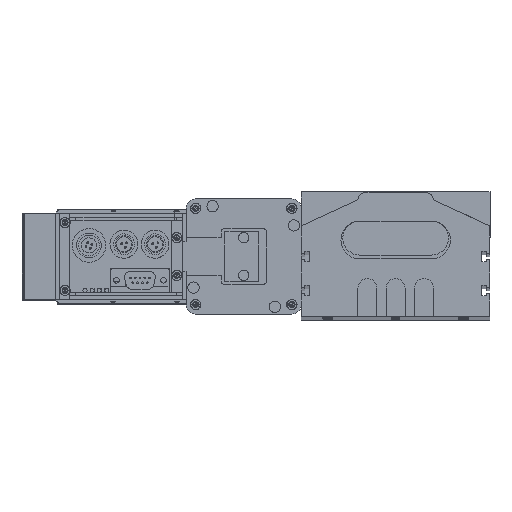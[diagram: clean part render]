
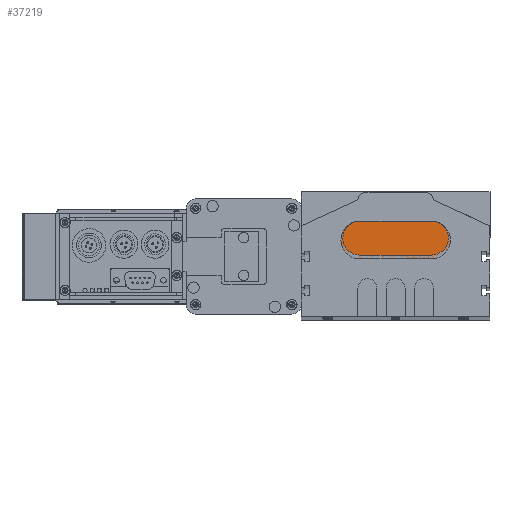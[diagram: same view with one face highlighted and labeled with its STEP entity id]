
A CAD part, top view. The second image highlights one B-rep face of the part: STEP entity #37219.
In plain terms, the highlighted planar face has unit normal (0, 0, 1).
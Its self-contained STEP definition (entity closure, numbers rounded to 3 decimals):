
#2546 = EDGE_CURVE ( 'NONE', #2974, #2776, #10752, .T. ) ;
#2742 = VERTEX_POINT ( 'NONE', #11933 ) ;
#2776 = VERTEX_POINT ( 'NONE', #12025 ) ;
#2778 = EDGE_CURVE ( 'NONE', #2776, #2742, #12001, .T. ) ;
#2949 = VERTEX_POINT ( 'NONE', #12397 ) ;
#2950 = VERTEX_POINT ( 'NONE', #12399 ) ;
#2974 = VERTEX_POINT ( 'NONE', #12425 ) ;
#3014 = EDGE_CURVE ( 'NONE', #2742, #2950, #12539, .T. ) ;
#3071 = EDGE_LOOP ( 'NONE', ( #37645, #3193, #37236, #37072, #37234 ) ) ;
#3193 = ORIENTED_EDGE ( 'NONE', *, *, #2778, .T. ) ;
#10748 = DIRECTION ( 'NONE',  ( 1., 0., 0. ) ) ;
#10749 = DIRECTION ( 'NONE',  ( 0., 0., 1. ) ) ;
#10750 = CARTESIAN_POINT ( 'NONE',  ( 0., 10., 10. ) ) ;
#10751 = AXIS2_PLACEMENT_3D ( 'NONE', #10750, #10749, #10748 ) ;
#10752 = CIRCLE ( 'NONE', #10751, 10. ) ;
#11933 = CARTESIAN_POINT ( 'NONE',  ( 0., 0., 10. ) ) ;
#12001 = CIRCLE ( 'NONE', #12004, 10. ) ;
#12004 = AXIS2_PLACEMENT_3D ( 'NONE', #12076, #12075, #12074 ) ;
#12025 = CARTESIAN_POINT ( 'NONE',  ( -10., 10., 10. ) ) ;
#12074 = DIRECTION ( 'NONE',  ( 1., 0., 0. ) ) ;
#12075 = DIRECTION ( 'NONE',  ( 0., 0., 1. ) ) ;
#12076 = CARTESIAN_POINT ( 'NONE',  ( 0., 10., 10. ) ) ;
#12397 = CARTESIAN_POINT ( 'NONE',  ( 38., 20., 10. ) ) ;
#12399 = CARTESIAN_POINT ( 'NONE',  ( 38., 0., 10. ) ) ;
#12425 = CARTESIAN_POINT ( 'NONE',  ( 0., 20., 10. ) ) ;
#12522 = DIRECTION ( 'NONE',  ( 1., 0., 0. ) ) ;
#12523 = VECTOR ( 'NONE', #12522, 1000. ) ;
#12524 = CARTESIAN_POINT ( 'NONE',  ( 0., 0., 10. ) ) ;
#12539 = LINE ( 'NONE', #12524, #12523 ) ;
#27146 = DIRECTION ( 'NONE',  ( -1., 0., 0. ) ) ;
#27147 = DIRECTION ( 'NONE',  ( 0., 0., 1. ) ) ;
#27148 = AXIS2_PLACEMENT_3D ( 'NONE', #27155, #27147, #27146 ) ;
#27155 = CARTESIAN_POINT ( 'NONE',  ( 38., 10., 10. ) ) ;
#27157 = CIRCLE ( 'NONE', #27148, 10. ) ;
#27252 = FACE_OUTER_BOUND ( 'NONE', #3071, .T. ) ;
#27254 = PLANE ( 'NONE',  #27305 ) ;
#27302 = DIRECTION ( 'NONE',  ( 1., 0., 0. ) ) ;
#27303 = DIRECTION ( 'NONE',  ( 0., 0., 1. ) ) ;
#27304 = CARTESIAN_POINT ( 'NONE',  ( 0., 10., 10. ) ) ;
#27305 = AXIS2_PLACEMENT_3D ( 'NONE', #27304, #27303, #27302 ) ;
#28019 = DIRECTION ( 'NONE',  ( -1., 0., 0. ) ) ;
#28020 = VECTOR ( 'NONE', #28019, 1000. ) ;
#28021 = CARTESIAN_POINT ( 'NONE',  ( 0., 20., 10. ) ) ;
#28023 = LINE ( 'NONE', #28021, #28020 ) ;
#37072 = ORIENTED_EDGE ( 'NONE', *, *, #37131, .T. ) ;
#37131 = EDGE_CURVE ( 'NONE', #2950, #2949, #27157, .T. ) ;
#37219 = ADVANCED_FACE ( 'NONE', ( #27252 ), #27254, .T. ) ;
#37234 = ORIENTED_EDGE ( 'NONE', *, *, #37669, .T. ) ;
#37236 = ORIENTED_EDGE ( 'NONE', *, *, #3014, .T. ) ;
#37645 = ORIENTED_EDGE ( 'NONE', *, *, #2546, .T. ) ;
#37669 = EDGE_CURVE ( 'NONE', #2949, #2974, #28023, .T. ) ;
